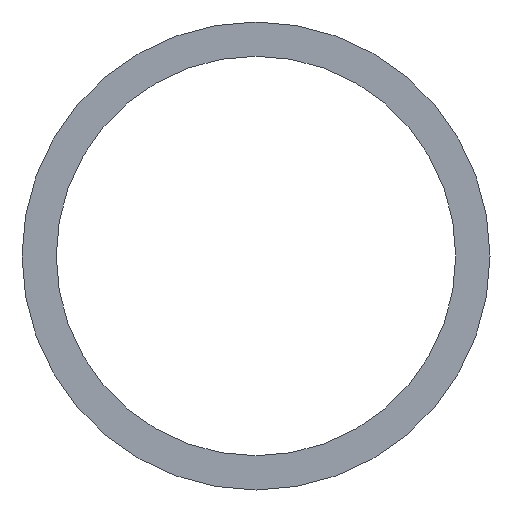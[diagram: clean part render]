
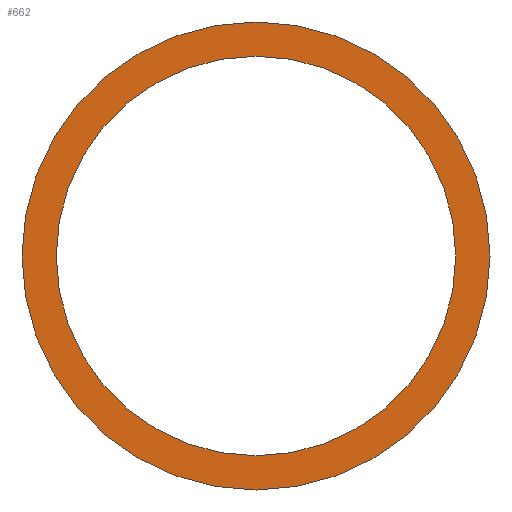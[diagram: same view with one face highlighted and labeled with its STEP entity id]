
A CAD part, front view. The second image highlights one B-rep face of the part: STEP entity #662.
In plain terms, the highlighted planar face has unit normal (0, -1, 0).
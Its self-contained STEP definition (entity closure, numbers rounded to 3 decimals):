
#3 = DIRECTION ( 'NONE',  ( 0., 0., -1. ) ) ;
#5 = CARTESIAN_POINT ( 'NONE',  ( 0., 0., 0. ) ) ;
#7 = AXIS2_PLACEMENT_3D ( 'NONE', #478, #597, #325 ) ;
#11 = FACE_BOUND ( 'NONE', #453, .T. ) ;
#24 = FACE_OUTER_BOUND ( 'NONE', #26, .T. ) ;
#26 = EDGE_LOOP ( 'NONE', ( #274, #58 ) ) ;
#28 = CARTESIAN_POINT ( 'NONE',  ( 0., 0., 0. ) ) ;
#58 = ORIENTED_EDGE ( 'NONE', *, *, #558, .T. ) ;
#62 = DIRECTION ( 'NONE',  ( 0., -1., 0. ) ) ;
#78 = DIRECTION ( 'NONE',  ( 0., -1., 0. ) ) ;
#82 = AXIS2_PLACEMENT_3D ( 'NONE', #5, #501, #444 ) ;
#84 = DIRECTION ( 'NONE',  ( 0., 0., -1. ) ) ;
#128 = ORIENTED_EDGE ( 'NONE', *, *, #509, .F. ) ;
#204 = VERTEX_POINT ( 'NONE', #513 ) ;
#213 = PLANE ( 'NONE',  #7 ) ;
#231 = CARTESIAN_POINT ( 'NONE',  ( 0., 0., 0. ) ) ;
#248 = EDGE_CURVE ( 'NONE', #464, #204, #557, .T. ) ;
#274 = ORIENTED_EDGE ( 'NONE', *, *, #391, .T. ) ;
#302 = VERTEX_POINT ( 'NONE', #368 ) ;
#325 = DIRECTION ( 'NONE',  ( 0., 0., 1. ) ) ;
#342 = CARTESIAN_POINT ( 'NONE',  ( 0., 0., -185. ) ) ;
#348 = CIRCLE ( 'NONE', #439, 185. ) ;
#358 = CARTESIAN_POINT ( 'NONE',  ( 0., 0., 0. ) ) ;
#360 = AXIS2_PLACEMENT_3D ( 'NONE', #231, #62, #3 ) ;
#368 = CARTESIAN_POINT ( 'NONE',  ( 0., 0., 185. ) ) ;
#371 = AXIS2_PLACEMENT_3D ( 'NONE', #358, #78, #459 ) ;
#391 = EDGE_CURVE ( 'NONE', #527, #302, #348, .T. ) ;
#420 = DIRECTION ( 'NONE',  ( 0., -1., 0. ) ) ;
#437 = ORIENTED_EDGE ( 'NONE', *, *, #248, .F. ) ;
#439 = AXIS2_PLACEMENT_3D ( 'NONE', #28, #420, #84 ) ;
#444 = DIRECTION ( 'NONE',  ( 0., 0., -1. ) ) ;
#453 = EDGE_LOOP ( 'NONE', ( #437, #128 ) ) ;
#459 = DIRECTION ( 'NONE',  ( 0., 0., -1. ) ) ;
#464 = VERTEX_POINT ( 'NONE', #473 ) ;
#473 = CARTESIAN_POINT ( 'NONE',  ( 0., 0., -157.95 ) ) ;
#478 = CARTESIAN_POINT ( 'NONE',  ( 0., 0., 185. ) ) ;
#501 = DIRECTION ( 'NONE',  ( 0., -1., 0. ) ) ;
#509 = EDGE_CURVE ( 'NONE', #204, #464, #683, .T. ) ;
#513 = CARTESIAN_POINT ( 'NONE',  ( 0., 0., 157.95 ) ) ;
#527 = VERTEX_POINT ( 'NONE', #342 ) ;
#557 = CIRCLE ( 'NONE', #371, 157.95 ) ;
#558 = EDGE_CURVE ( 'NONE', #302, #527, #611, .T. ) ;
#597 = DIRECTION ( 'NONE',  ( 0., 1., 0. ) ) ;
#611 = CIRCLE ( 'NONE', #82, 185. ) ;
#662 = ADVANCED_FACE ( 'NONE', ( #11, #24 ), #213, .F. ) ;
#683 = CIRCLE ( 'NONE', #360, 157.95 ) ;
